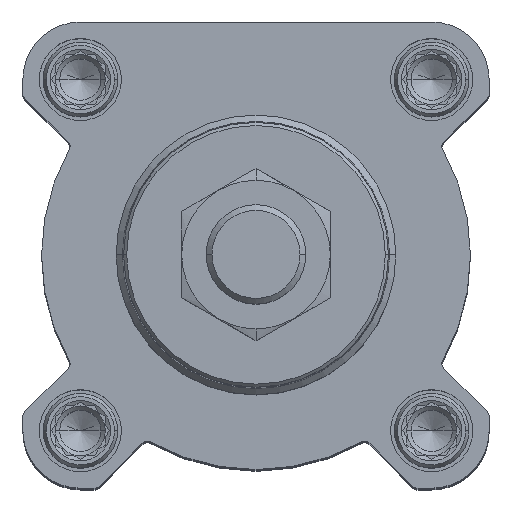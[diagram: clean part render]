
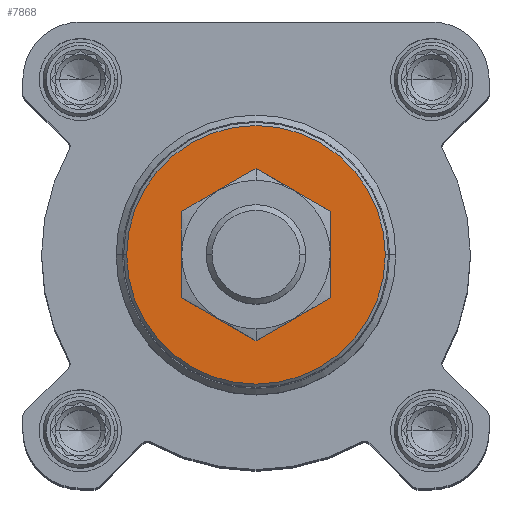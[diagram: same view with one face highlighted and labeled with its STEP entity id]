
A CAD part, top view. The second image highlights one B-rep face of the part: STEP entity #7868.
In plain terms, the highlighted planar face has unit normal (0, 0, 1).
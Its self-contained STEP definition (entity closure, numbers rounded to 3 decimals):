
#580 = DIRECTION ( 'NONE',  ( -1., 0., 0. ) ) ;
#926 = DIRECTION ( 'NONE',  ( 0., 0., -1. ) ) ;
#934 = CARTESIAN_POINT ( 'NONE',  ( 0., 0., 27. ) ) ;
#973 = EDGE_CURVE ( 'NONE', #11748, #3863, #1827, .T. ) ;
#978 = CIRCLE ( 'NONE', #3862, 10. ) ;
#1682 = EDGE_CURVE ( 'NONE', #19727, #6562, #5227, .T. ) ;
#1719 = ORIENTED_EDGE ( 'NONE', *, *, #973, .T. ) ;
#1827 = CIRCLE ( 'NONE', #12459, 10. ) ;
#1895 = FACE_OUTER_BOUND ( 'NONE', #10319, .T. ) ;
#2092 = DIRECTION ( 'NONE',  ( 0., -1., 0. ) ) ;
#2094 = CARTESIAN_POINT ( 'NONE',  ( 10., 0., 27. ) ) ;
#2266 = CARTESIAN_POINT ( 'NONE',  ( -10., 0., 27. ) ) ;
#3606 = PLANE ( 'NONE',  #8075 ) ;
#3862 = AXIS2_PLACEMENT_3D ( 'NONE', #17636, #5011, #580 ) ;
#3863 = VERTEX_POINT ( 'NONE', #2266 ) ;
#3950 = CARTESIAN_POINT ( 'NONE',  ( 0., 0., 27. ) ) ;
#5011 = DIRECTION ( 'NONE',  ( 0., 0., -1. ) ) ;
#5227 = CIRCLE ( 'NONE', #15209, 20.799 ) ;
#5242 = ORIENTED_EDGE ( 'NONE', *, *, #7585, .F. ) ;
#6534 = FACE_BOUND ( 'NONE', #19110, .T. ) ;
#6562 = VERTEX_POINT ( 'NONE', #10171 ) ;
#6751 = AXIS2_PLACEMENT_3D ( 'NONE', #7340, #19576, #7236 ) ;
#7236 = DIRECTION ( 'NONE',  ( -1., 0., 0. ) ) ;
#7340 = CARTESIAN_POINT ( 'NONE',  ( 0., 0., 27. ) ) ;
#7585 = EDGE_CURVE ( 'NONE', #6562, #19727, #15448, .T. ) ;
#7868 = ADVANCED_FACE ( 'NONE', ( #1895, #6534 ), #3606, .F. ) ;
#7924 = EDGE_CURVE ( 'NONE', #3863, #11748, #978, .T. ) ;
#8075 = AXIS2_PLACEMENT_3D ( 'NONE', #9957, #11574, #2092 ) ;
#9957 = CARTESIAN_POINT ( 'NONE',  ( 0., 0., 27. ) ) ;
#10171 = CARTESIAN_POINT ( 'NONE',  ( 20.799, 0., 27. ) ) ;
#10221 = DIRECTION ( 'NONE',  ( -1., 0., 0. ) ) ;
#10319 = EDGE_LOOP ( 'NONE', ( #16436, #5242 ) ) ;
#11574 = DIRECTION ( 'NONE',  ( 0., 0., -1. ) ) ;
#11748 = VERTEX_POINT ( 'NONE', #2094 ) ;
#12459 = AXIS2_PLACEMENT_3D ( 'NONE', #3950, #926, #17687 ) ;
#13344 = ORIENTED_EDGE ( 'NONE', *, *, #7924, .T. ) ;
#14867 = DIRECTION ( 'NONE',  ( 0., 0., -1. ) ) ;
#15209 = AXIS2_PLACEMENT_3D ( 'NONE', #934, #14867, #10221 ) ;
#15272 = CARTESIAN_POINT ( 'NONE',  ( -20.799, 0., 27. ) ) ;
#15448 = CIRCLE ( 'NONE', #6751, 20.799 ) ;
#16436 = ORIENTED_EDGE ( 'NONE', *, *, #1682, .F. ) ;
#17636 = CARTESIAN_POINT ( 'NONE',  ( 0., 0., 27. ) ) ;
#17687 = DIRECTION ( 'NONE',  ( -1., 0., 0. ) ) ;
#19110 = EDGE_LOOP ( 'NONE', ( #13344, #1719 ) ) ;
#19576 = DIRECTION ( 'NONE',  ( 0., 0., -1. ) ) ;
#19727 = VERTEX_POINT ( 'NONE', #15272 ) ;
